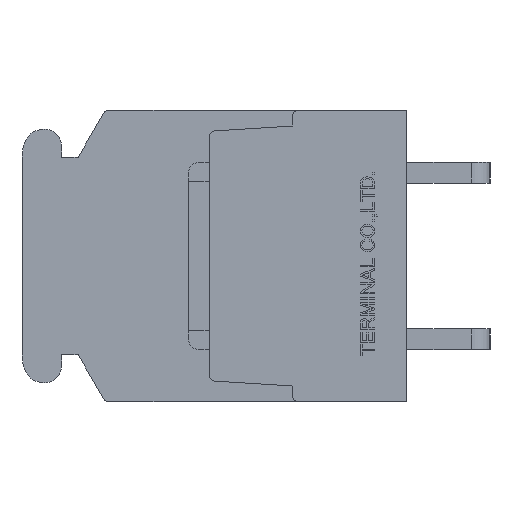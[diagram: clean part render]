
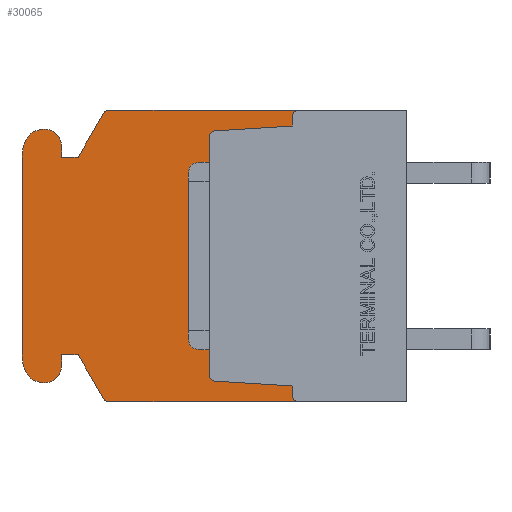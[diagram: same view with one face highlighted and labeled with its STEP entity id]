
A CAD part, left-side view. The second image highlights one B-rep face of the part: STEP entity #30065.
In plain terms, the highlighted planar face has unit normal (-1, 0, 0).
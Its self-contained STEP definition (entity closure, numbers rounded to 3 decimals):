
#560=CIRCLE('',#30481,0.3);
#561=CIRCLE('',#30485,0.3);
#562=CIRCLE('',#30487,0.3);
#563=CIRCLE('',#30491,0.3);
#1196=CIRCLE('',#32346,0.3);
#1197=CIRCLE('',#32347,0.8);
#1198=CIRCLE('',#32348,1.);
#1199=CIRCLE('',#32349,2.);
#1200=CIRCLE('',#32350,2.);
#1201=CIRCLE('',#32351,1.);
#1202=CIRCLE('',#32352,0.8);
#1203=CIRCLE('',#32353,0.3);
#1604=VERTEX_POINT('',#39306);
#1605=VERTEX_POINT('',#39307);
#1958=VERTEX_POINT('',#40828);
#1959=VERTEX_POINT('',#40832);
#1960=VERTEX_POINT('',#40836);
#1961=VERTEX_POINT('',#40840);
#1962=VERTEX_POINT('',#40844);
#1963=VERTEX_POINT('',#40845);
#1964=VERTEX_POINT('',#40850);
#1965=VERTEX_POINT('',#40854);
#3741=VERTEX_POINT('',#46292);
#3776=VERTEX_POINT('',#46399);
#4234=VERTEX_POINT('',#47828);
#4235=VERTEX_POINT('',#47830);
#4236=VERTEX_POINT('',#47832);
#4237=VERTEX_POINT('',#47834);
#4238=VERTEX_POINT('',#47836);
#4239=VERTEX_POINT('',#47838);
#4240=VERTEX_POINT('',#47840);
#4241=VERTEX_POINT('',#47842);
#4242=VERTEX_POINT('',#47844);
#4243=VERTEX_POINT('',#47846);
#4244=VERTEX_POINT('',#47848);
#4245=VERTEX_POINT('',#47850);
#4246=VERTEX_POINT('',#47852);
#4247=VERTEX_POINT('',#47854);
#4248=VERTEX_POINT('',#47856);
#4249=VERTEX_POINT('',#47858);
#4646=VECTOR('',#32613,1.);
#5055=VECTOR('',#33169,1.);
#5057=VECTOR('',#33172,1.);
#5062=VECTOR('',#33186,1.);
#5064=VECTOR('',#33189,1.);
#6898=VECTOR('',#37356,1.);
#6935=VECTOR('',#37451,1.);
#7513=VECTOR('',#38494,1.);
#7514=VECTOR('',#38495,1.);
#7515=VECTOR('',#38496,1.);
#7516=VECTOR('',#38499,1.);
#7517=VECTOR('',#38504,1.);
#7518=VECTOR('',#38509,1.);
#7519=VECTOR('',#38512,1.);
#7520=VECTOR('',#38513,1.);
#7521=VECTOR('',#38514,1.);
#7968=LINE('',#39305,#4646);
#8377=LINE('',#40831,#5055);
#8379=LINE('',#40835,#5057);
#8384=LINE('',#40849,#5062);
#8386=LINE('',#40853,#5064);
#10220=LINE('',#46293,#6898);
#10257=LINE('',#46398,#6935);
#10835=LINE('',#47829,#7513);
#10836=LINE('',#47831,#7514);
#10837=LINE('',#47833,#7515);
#10838=LINE('',#47837,#7516);
#10839=LINE('',#47843,#7517);
#10840=LINE('',#47849,#7518);
#10841=LINE('',#47853,#7519);
#10842=LINE('',#47855,#7520);
#10843=LINE('',#47857,#7521);
#11290=EDGE_CURVE('',#1604,#1605,#7968,.T.);
#11808=EDGE_CURVE('',#1958,#1604,#560,.T.);
#11810=EDGE_CURVE('',#1959,#1958,#8377,.T.);
#11812=EDGE_CURVE('',#1960,#1959,#8379,.T.);
#11814=EDGE_CURVE('',#1961,#1960,#561,.T.);
#11816=EDGE_CURVE('',#1962,#1963,#562,.T.);
#11819=EDGE_CURVE('',#1964,#1962,#8384,.T.);
#11821=EDGE_CURVE('',#1965,#1964,#8386,.T.);
#11823=EDGE_CURVE('',#1605,#1965,#563,.T.);
#14404=EDGE_CURVE('',#3741,#1963,#10220,.T.);
#14457=EDGE_CURVE('',#1961,#3776,#10257,.T.);
#15249=EDGE_CURVE('',#4234,#3741,#1196,.T.);
#15250=EDGE_CURVE('',#4235,#4234,#10835,.T.);
#15251=EDGE_CURVE('',#4236,#4235,#10836,.T.);
#15252=EDGE_CURVE('',#4237,#4236,#10837,.T.);
#15253=EDGE_CURVE('',#4238,#4237,#1197,.T.);
#15254=EDGE_CURVE('',#4239,#4238,#10838,.T.);
#15255=EDGE_CURVE('',#4240,#4239,#1198,.T.);
#15256=EDGE_CURVE('',#4241,#4240,#1199,.T.);
#15257=EDGE_CURVE('',#4242,#4241,#10839,.T.);
#15258=EDGE_CURVE('',#4243,#4242,#1200,.T.);
#15259=EDGE_CURVE('',#4244,#4243,#1201,.T.);
#15260=EDGE_CURVE('',#4245,#4244,#10840,.T.);
#15261=EDGE_CURVE('',#4246,#4245,#1202,.T.);
#15262=EDGE_CURVE('',#4247,#4246,#10841,.T.);
#15263=EDGE_CURVE('',#4248,#4247,#10842,.T.);
#15264=EDGE_CURVE('',#4249,#4248,#10843,.T.);
#15265=EDGE_CURVE('',#3776,#4249,#1203,.T.);
#23741=ORIENTED_EDGE('',*,*,#11816,.T.);
#23742=ORIENTED_EDGE('',*,*,#14404,.F.);
#23743=ORIENTED_EDGE('',*,*,#15249,.F.);
#23744=ORIENTED_EDGE('',*,*,#15250,.F.);
#23745=ORIENTED_EDGE('',*,*,#15251,.F.);
#23746=ORIENTED_EDGE('',*,*,#15252,.F.);
#23747=ORIENTED_EDGE('',*,*,#15253,.F.);
#23748=ORIENTED_EDGE('',*,*,#15254,.F.);
#23749=ORIENTED_EDGE('',*,*,#15255,.F.);
#23750=ORIENTED_EDGE('',*,*,#15256,.F.);
#23751=ORIENTED_EDGE('',*,*,#15257,.F.);
#23752=ORIENTED_EDGE('',*,*,#15258,.F.);
#23753=ORIENTED_EDGE('',*,*,#15259,.F.);
#23754=ORIENTED_EDGE('',*,*,#15260,.F.);
#23755=ORIENTED_EDGE('',*,*,#15261,.F.);
#23756=ORIENTED_EDGE('',*,*,#15262,.F.);
#23757=ORIENTED_EDGE('',*,*,#15263,.F.);
#23758=ORIENTED_EDGE('',*,*,#15264,.F.);
#23759=ORIENTED_EDGE('',*,*,#15265,.F.);
#23760=ORIENTED_EDGE('',*,*,#14457,.F.);
#23761=ORIENTED_EDGE('',*,*,#11814,.T.);
#23762=ORIENTED_EDGE('',*,*,#11812,.T.);
#23763=ORIENTED_EDGE('',*,*,#11810,.T.);
#23764=ORIENTED_EDGE('',*,*,#11808,.T.);
#23765=ORIENTED_EDGE('',*,*,#11290,.T.);
#23766=ORIENTED_EDGE('',*,*,#11823,.T.);
#23767=ORIENTED_EDGE('',*,*,#11821,.T.);
#23768=ORIENTED_EDGE('',*,*,#11819,.T.);
#26536=EDGE_LOOP('',(#23741,#23742,#23743,#23744,#23745,#23746,#23747,#23748,
#23749,#23750,#23751,#23752,#23753,#23754,#23755,#23756,#23757,#23758,#23759,
#23760,#23761,#23762,#23763,#23764,#23765,#23766,#23767,#23768));
#28370=FACE_BOUND('',#26536,.T.);
#30065=ADVANCED_FACE('',(#28370),#50554,.F.);
#30481=AXIS2_PLACEMENT_3D('',#40827,#33165,#33166);
#30485=AXIS2_PLACEMENT_3D('',#40839,#33176,#33177);
#30487=AXIS2_PLACEMENT_3D('',#40843,#33181,#33182);
#30491=AXIS2_PLACEMENT_3D('',#40857,#33193,#33194);
#32345=AXIS2_PLACEMENT_3D('',#47826,#38491,$);
#32346=AXIS2_PLACEMENT_3D('',#47827,#38492,#38493);
#32347=AXIS2_PLACEMENT_3D('',#47835,#38497,#38498);
#32348=AXIS2_PLACEMENT_3D('',#47839,#38500,#38501);
#32349=AXIS2_PLACEMENT_3D('',#47841,#38502,#38503);
#32350=AXIS2_PLACEMENT_3D('',#47845,#38505,#38506);
#32351=AXIS2_PLACEMENT_3D('',#47847,#38507,#38508);
#32352=AXIS2_PLACEMENT_3D('',#47851,#38510,#38511);
#32353=AXIS2_PLACEMENT_3D('',#47859,#38515,#38516);
#32613=DIRECTION('',(0.,0.,1.));
#33165=DIRECTION('',(1.,0.,0.));
#33166=DIRECTION('',(0.,0.,-0.3));
#33169=DIRECTION('',(0.,0.998,0.062));
#33172=DIRECTION('',(0.,0.,1.));
#33176=DIRECTION('',(1.,0.,0.));
#33177=DIRECTION('',(0.,0.,-0.3));
#33181=DIRECTION('',(1.,0.,0.));
#33182=DIRECTION('',(0.,0.,-0.3));
#33186=DIRECTION('',(0.,0.,1.));
#33189=DIRECTION('',(0.,-0.998,0.062));
#33193=DIRECTION('',(1.,0.,0.));
#33194=DIRECTION('',(0.,0.,-0.3));
#37356=DIRECTION('',(0.,-1.,0.));
#37451=DIRECTION('',(0.,1.,0.));
#38491=DIRECTION('',(1.,0.,0.));
#38492=DIRECTION('',(1.,0.,0.));
#38493=DIRECTION('',(0.,0.,-0.3));
#38494=DIRECTION('',(0.,-0.5,0.866));
#38495=DIRECTION('',(0.,-1.,0.));
#38496=DIRECTION('',(0.,0.,-1.));
#38497=DIRECTION('',(1.,0.,0.));
#38498=DIRECTION('',(0.,0.,-0.8));
#38499=DIRECTION('',(0.,-1.,0.));
#38500=DIRECTION('',(1.,0.,0.));
#38501=DIRECTION('',(0.,0.,-1.));
#38502=DIRECTION('',(1.,0.,0.));
#38503=DIRECTION('',(0.,0.,-2.));
#38504=DIRECTION('',(0.,0.,1.));
#38505=DIRECTION('',(1.,0.,0.));
#38506=DIRECTION('',(0.,0.,-2.));
#38507=DIRECTION('',(1.,0.,0.));
#38508=DIRECTION('',(0.,0.,-1.));
#38509=DIRECTION('',(0.,1.,0.));
#38510=DIRECTION('',(1.,0.,0.));
#38511=DIRECTION('',(0.,0.,-0.8));
#38512=DIRECTION('',(0.,0.,-1.));
#38513=DIRECTION('',(0.,1.,0.));
#38514=DIRECTION('',(0.,0.5,0.866));
#38515=DIRECTION('',(1.,0.,0.));
#38516=DIRECTION('',(0.,0.,-0.3));
#39305=CARTESIAN_POINT('',(8.15,9.5,0.));
#39306=CARTESIAN_POINT('',(8.15,9.5,-5.718));
#39307=CARTESIAN_POINT('',(8.15,9.5,5.718));
#40827=CARTESIAN_POINT('',(8.15,9.2,-5.718));
#40828=CARTESIAN_POINT('',(8.15,9.219,-6.018));
#40831=CARTESIAN_POINT('',(8.15,8.522,-6.061));
#40832=CARTESIAN_POINT('',(8.15,5.5,-6.25));
#40835=CARTESIAN_POINT('',(8.15,5.5,-3.237));
#40836=CARTESIAN_POINT('',(8.15,5.5,-6.7));
#40839=CARTESIAN_POINT('',(8.15,5.2,-6.7));
#40840=CARTESIAN_POINT('',(8.15,5.2,-7.));
#40843=CARTESIAN_POINT('',(8.15,5.2,6.7));
#40844=CARTESIAN_POINT('',(8.15,5.5,6.7));
#40845=CARTESIAN_POINT('',(8.15,5.2,7.));
#40849=CARTESIAN_POINT('',(8.15,5.5,3.238));
#40850=CARTESIAN_POINT('',(8.15,5.5,6.25));
#40853=CARTESIAN_POINT('',(8.15,8.522,6.061));
#40854=CARTESIAN_POINT('',(8.15,9.219,6.018));
#40857=CARTESIAN_POINT('',(8.15,9.2,5.718));
#46292=CARTESIAN_POINT('',(8.15,14.327,7.));
#46293=CARTESIAN_POINT('',(8.15,14.327,7.));
#46398=CARTESIAN_POINT('',(8.15,0.,-7.));
#46399=CARTESIAN_POINT('',(8.15,14.327,-7.));
#47826=CARTESIAN_POINT('',(8.15,9.311,0.));
#47827=CARTESIAN_POINT('',(8.15,14.327,6.7));
#47828=CARTESIAN_POINT('',(8.15,14.587,6.85));
#47829=CARTESIAN_POINT('',(8.15,15.8,4.75));
#47830=CARTESIAN_POINT('',(8.15,15.8,4.75));
#47831=CARTESIAN_POINT('',(8.15,16.6,4.75));
#47832=CARTESIAN_POINT('',(8.15,16.6,4.75));
#47833=CARTESIAN_POINT('',(8.15,16.6,5.3));
#47834=CARTESIAN_POINT('',(8.15,16.6,5.3));
#47835=CARTESIAN_POINT('',(8.15,17.4,5.3));
#47836=CARTESIAN_POINT('',(8.15,17.4,6.1));
#47837=CARTESIAN_POINT('',(8.15,17.437,6.1));
#47838=CARTESIAN_POINT('',(8.15,17.437,6.1));
#47839=CARTESIAN_POINT('',(8.15,17.437,5.1));
#47840=CARTESIAN_POINT('',(8.15,18.373,5.45));
#47841=CARTESIAN_POINT('',(8.15,16.5,4.75));
#47842=CARTESIAN_POINT('',(8.15,18.5,4.75));
#47843=CARTESIAN_POINT('',(8.15,18.5,-4.75));
#47844=CARTESIAN_POINT('',(8.15,18.5,-4.75));
#47845=CARTESIAN_POINT('',(8.15,16.5,-4.75));
#47846=CARTESIAN_POINT('',(8.15,18.373,-5.45));
#47847=CARTESIAN_POINT('',(8.15,17.437,-5.1));
#47848=CARTESIAN_POINT('',(8.15,17.437,-6.1));
#47849=CARTESIAN_POINT('',(8.15,17.4,-6.1));
#47850=CARTESIAN_POINT('',(8.15,17.4,-6.1));
#47851=CARTESIAN_POINT('',(8.15,17.4,-5.3));
#47852=CARTESIAN_POINT('',(8.15,16.6,-5.3));
#47853=CARTESIAN_POINT('',(8.15,16.6,-4.75));
#47854=CARTESIAN_POINT('',(8.15,16.6,-4.75));
#47855=CARTESIAN_POINT('',(8.15,15.8,-4.75));
#47856=CARTESIAN_POINT('',(8.15,15.8,-4.75));
#47857=CARTESIAN_POINT('',(8.15,14.587,-6.85));
#47858=CARTESIAN_POINT('',(8.15,14.587,-6.85));
#47859=CARTESIAN_POINT('',(8.15,14.327,-6.7));
#50554=PLANE('',#32345);
